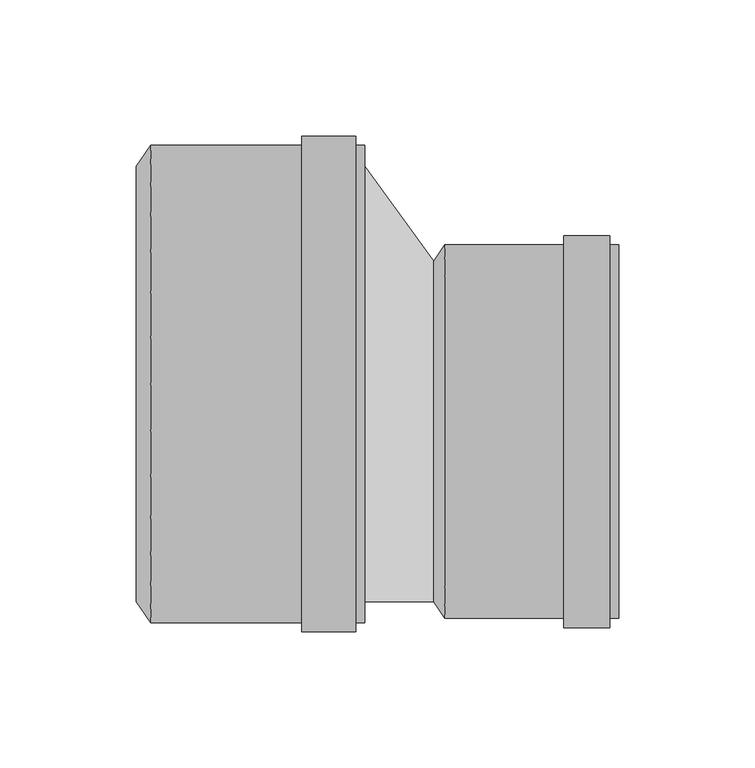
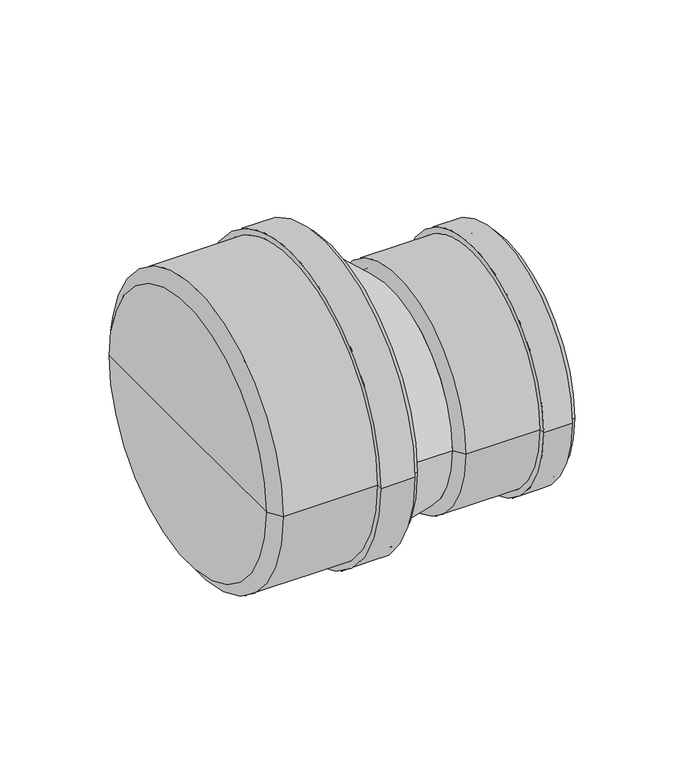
"""IFC4 building model written with IfcOpenShell, lengths in millimetres: pipe fitting geometry, pf_KGR_red-nes : pf_KGR_red-nes."""

from ifc_helpers import new_model, si_unit, frame, origin, place, context, project, spatial, polyline, circle_curve, source, transform, mapped, element, save
from ifc_brep_helpers import plane_surface, cylinder_surface, revolved_surface, spline_surface, advanced_brep


def pipe_fitting_dc32cf9a(model_context):
    return source(origin(), model_context, "Body", "AdvancedBrep", [
        advanced_brep(
        [(-84.0, -80.0, 0.0), (-84.0, 80.0, 0.0), (-78.6, 87.6, 0.0), (-78.6, -87.6, 0.0), (-84.0, 0.0, 0.0), (0.0, -87.6, 0.0), (0.0, 87.6, 0.0), (0.0, 80.0, 0.0), (0.0, -80.0, 0.0), (-3.4, -87.6, 0.0), (-3.4, 87.6, 0.0), (-3.4, -91.0, 0.0), (-3.4, 91.0, 0.0), (-23.1, -91.0, 0.0), (-23.1, 91.0, 0.0), (-23.1, -87.6, 0.0), (-23.1, 87.6, 0.0), (-78.6, -80.0, 0.0), (-78.6, 80.0, 0.0), (-78.6, 0.0, 0.0)],
        [
            (0, 1, circle_curve(frame((-84.0, 0.0, 0.0), z_axis=(1.0, 0.0, 0.0), x_axis=(0.0, 1.0, 0.0)), 80.0)),
            (1, 2),
            (2, 3, circle_curve(frame((-78.6, 0.0, 0.0), z_axis=(-1.0, 0.0, 0.0), x_axis=(0.0, 1.0, 0.0)), 87.6)),
            (3, 0),
            (1, 0, circle_curve(frame((-84.0, 0.0, 0.0), z_axis=(1.0, 0.0, 0.0), x_axis=(0.0, 1.0, 0.0)), 80.0)),
            (3, 2, circle_curve(frame((-78.6, 0.0, 0.0), z_axis=(-1.0, 0.0, 0.0), x_axis=(0.0, 1.0, 0.0)), 87.6)),
            (4, 1),
            (0, 4),
            (5, 6, circle_curve(frame((0.0, 0.0, 0.0), z_axis=(1.0, 0.0, 0.0), x_axis=(0.0, 1.0, 0.0)), 87.6)),
            (6, 7),
            (7, 8, circle_curve(frame((0.0, 0.0, 0.0), z_axis=(-1.0, 0.0, 0.0), x_axis=(0.0, 1.0, 0.0)), 80.0)),
            (8, 5),
            (6, 5, circle_curve(frame((0.0, 0.0, 0.0), z_axis=(1.0, 0.0, 0.0), x_axis=(0.0, 1.0, 0.0)), 87.6)),
            (8, 7, circle_curve(frame((0.0, 0.0, 0.0), z_axis=(-1.0, 0.0, 0.0), x_axis=(0.0, 1.0, 0.0)), 80.0)),
            (9, 10, circle_curve(frame((-3.4, 0.0, 0.0), z_axis=(1.0, 0.0, 0.0), x_axis=(0.0, 1.0, 0.0)), 87.6)),
            (10, 6),
            (5, 9),
            (10, 9, circle_curve(frame((-3.4, 0.0, 0.0), z_axis=(1.0, 0.0, 0.0), x_axis=(0.0, 1.0, 0.0)), 87.6)),
            (11, 12, circle_curve(frame((-3.4, 0.0, 0.0), z_axis=(1.0, 0.0, 0.0), x_axis=(0.0, 1.0, 0.0)), 91.0)),
            (12, 10),
            (9, 11),
            (12, 11, circle_curve(frame((-3.4, 0.0, 0.0), z_axis=(1.0, 0.0, 0.0), x_axis=(0.0, 1.0, 0.0)), 91.0)),
            (13, 14, circle_curve(frame((-23.1, 0.0, 0.0), z_axis=(1.0, 0.0, 0.0), x_axis=(0.0, 1.0, 0.0)), 91.0)),
            (14, 12),
            (11, 13),
            (14, 13, circle_curve(frame((-23.1, 0.0, 0.0), z_axis=(1.0, 0.0, 0.0), x_axis=(0.0, 1.0, 0.0)), 91.0)),
            (15, 16, circle_curve(frame((-23.1, 0.0, 0.0), z_axis=(1.0, 0.0, 0.0), x_axis=(0.0, 1.0, 0.0)), 87.6)),
            (16, 14),
            (13, 15),
            (16, 15, circle_curve(frame((-23.1, 0.0, 0.0), z_axis=(1.0, 0.0, 0.0), x_axis=(0.0, 1.0, 0.0)), 87.6)),
            (2, 16),
            (15, 3),
            (17, 18, circle_curve(frame((-78.6, 0.0, 0.0), z_axis=(1.0, 0.0, 0.0), x_axis=(0.0, 1.0, 0.0)), 80.0)),
            (18, 19),
            (19, 17),
            (18, 17, circle_curve(frame((-78.6, 0.0, 0.0), z_axis=(1.0, 0.0, 0.0), x_axis=(0.0, 1.0, 0.0)), 80.0)),
            (7, 18),
            (17, 8),
        ],
        [
            revolved_surface(polyline([(-78.6, 87.6, 0.0), (-84.0, 80.0, 0.0)]), (-84.0, 0.0, 0.0), (-1.0, 0.0, 0.0)),
            plane_surface(frame((-84.0, 0.0, 0.0), z_axis=(-1.0, 0.0, 0.0), x_axis=(0.0, 1.0, 0.0))),
            plane_surface(frame((0.0, 0.0, 0.0), z_axis=(1.0, 0.0, 0.0), x_axis=(0.0, 1.0, 0.0))),
            cylinder_surface(frame((-84.0, 0.0, 0.0), z_axis=(-1.0, 0.0, 0.0), x_axis=(0.0, 1.0, 0.0)), 87.6),
            plane_surface(frame((-3.4, 0.0, 0.0), z_axis=(1.0, 0.0, 0.0), x_axis=(0.0, 1.0, 0.0))),
            cylinder_surface(frame((-84.0, 0.0, 0.0), z_axis=(-1.0, 0.0, 0.0), x_axis=(0.0, 1.0, 0.0)), 91.0),
            plane_surface(frame((-23.1, 0.0, 0.0), z_axis=(-1.0, 0.0, 0.0), x_axis=(0.0, 1.0, 0.0))),
            plane_surface(frame((-78.6, 0.0, 0.0), z_axis=(1.0, 0.0, 0.0), x_axis=(0.0, 1.0, 0.0))),
            revolved_surface(polyline([(-78.6, 80.0, 0.0), (0.0, 80.0, 0.0)]), (-84.0, 0.0, 0.0), (-1.0, 0.0, 0.0)),
        ],
        [
            (0, [[1, 2, 3, 4]]),
            (0, [[5, -4, 6, -2]]),
            (1, [[7, -1, 8]]),
            (1, [[-8, -5, -7]]),
            (2, [[9, 10, 11, 12]]),
            (2, [[13, -12, 14, -10]]),
            (3, [[15, 16, -9, 17]]),
            (3, [[18, -17, -13, -16]]),
            (4, [[19, 20, -15, 21]]),
            (4, [[22, -21, -18, -20]]),
            (5, [[23, 24, -19, 25]]),
            (5, [[26, -25, -22, -24]]),
            (6, [[27, 28, -23, 29]]),
            (6, [[30, -29, -26, -28]]),
            (3, [[-3, 31, -27, 32]]),
            (3, [[-6, -32, -30, -31]]),
            (7, [[33, 34, 35]]),
            (7, [[36, -35, -34]]),
            (8, [[-11, 37, -33, 38]]),
            (8, [[-14, -38, -36, -37]]),
        ],
    ),
        advanced_brep(
        [(25.25, -80.0, 0.0), (25.25, 45.0, 0.0), (29.35, 51.1, 0.0), (29.35, -86.1, 0.0), (25.25, -17.5, 0.0), (93.25, -86.1, 0.0), (93.25, 51.1, 0.0), (93.25, 45.0, 0.0), (93.25, -80.0, 0.0), (89.85, -86.1, 0.0), (89.85, 51.1, 0.0), (89.85, -89.5, 0.0), (89.85, 54.5, 0.0), (73.05, -89.5, 0.0), (73.05, 54.5, 0.0), (73.05, -86.1, 0.0), (73.05, 51.1, 0.0), (29.35, -80.0, 0.0), (29.35, 45.0, 0.0), (29.35, -17.5, 0.0)],
        [
            (0, 1, circle_curve(frame((25.25, -17.5, 0.0), z_axis=(1.0, 0.0, 0.0), x_axis=(0.0, 1.0, 0.0)), 62.5)),
            (1, 2),
            (2, 3, circle_curve(frame((29.35, -17.5, 0.0), z_axis=(-1.0, 0.0, 0.0), x_axis=(0.0, 1.0, 0.0)), 68.6)),
            (3, 0),
            (1, 0, circle_curve(frame((25.25, -17.5, 0.0), z_axis=(1.0, 0.0, 0.0), x_axis=(0.0, 1.0, 0.0)), 62.5)),
            (3, 2, circle_curve(frame((29.35, -17.5, 0.0), z_axis=(-1.0, 0.0, 0.0), x_axis=(0.0, 1.0, 0.0)), 68.6)),
            (4, 1),
            (0, 4),
            (5, 6, circle_curve(frame((93.25, -17.5, 0.0), z_axis=(1.0, 0.0, 0.0), x_axis=(0.0, 1.0, 0.0)), 68.6)),
            (6, 7),
            (7, 8, circle_curve(frame((93.25, -17.5, 0.0), z_axis=(-1.0, 0.0, 0.0), x_axis=(0.0, 1.0, 0.0)), 62.5)),
            (8, 5),
            (6, 5, circle_curve(frame((93.25, -17.5, 0.0), z_axis=(1.0, 0.0, 0.0), x_axis=(0.0, 1.0, 0.0)), 68.6)),
            (8, 7, circle_curve(frame((93.25, -17.5, 0.0), z_axis=(-1.0, 0.0, 0.0), x_axis=(0.0, 1.0, 0.0)), 62.5)),
            (9, 10, circle_curve(frame((89.85, -17.5, 0.0), z_axis=(1.0, 0.0, 0.0), x_axis=(0.0, 1.0, 0.0)), 68.6)),
            (10, 6),
            (5, 9),
            (10, 9, circle_curve(frame((89.85, -17.5, 0.0), z_axis=(1.0, 0.0, 0.0), x_axis=(0.0, 1.0, 0.0)), 68.6)),
            (11, 12, circle_curve(frame((89.85, -17.5, 0.0), z_axis=(1.0, 0.0, 0.0), x_axis=(0.0, 1.0, 0.0)), 72.0)),
            (12, 10),
            (9, 11),
            (12, 11, circle_curve(frame((89.85, -17.5, 0.0), z_axis=(1.0, 0.0, 0.0), x_axis=(0.0, 1.0, 0.0)), 72.0)),
            (13, 14, circle_curve(frame((73.05, -17.5, 0.0), z_axis=(1.0, 0.0, 0.0), x_axis=(0.0, 1.0, 0.0)), 72.0)),
            (14, 12),
            (11, 13),
            (14, 13, circle_curve(frame((73.05, -17.5, 0.0), z_axis=(1.0, 0.0, 0.0), x_axis=(0.0, 1.0, 0.0)), 72.0)),
            (15, 16, circle_curve(frame((73.05, -17.5, 0.0), z_axis=(1.0, 0.0, 0.0), x_axis=(0.0, 1.0, 0.0)), 68.6)),
            (16, 14),
            (13, 15),
            (16, 15, circle_curve(frame((73.05, -17.5, 0.0), z_axis=(1.0, 0.0, 0.0), x_axis=(0.0, 1.0, 0.0)), 68.6)),
            (2, 16),
            (15, 3),
            (17, 18, circle_curve(frame((29.35, -17.5, 0.0), z_axis=(1.0, 0.0, 0.0), x_axis=(0.0, 1.0, 0.0)), 62.5)),
            (18, 19),
            (19, 17),
            (18, 17, circle_curve(frame((29.35, -17.5, 0.0), z_axis=(1.0, 0.0, 0.0), x_axis=(0.0, 1.0, 0.0)), 62.5)),
            (7, 18),
            (17, 8),
        ],
        [
            revolved_surface(polyline([(29.35, 51.1, 0.0), (25.25, 45.0, 0.0)]), (25.25, -17.5, 0.0), (-1.0, 0.0, 0.0)),
            plane_surface(frame((25.25, -17.5, 0.0), z_axis=(-1.0, 0.0, 0.0), x_axis=(0.0, 1.0, 0.0))),
            plane_surface(frame((93.25, -17.5, 0.0), z_axis=(1.0, 0.0, 0.0), x_axis=(0.0, 1.0, 0.0))),
            cylinder_surface(frame((25.25, -17.5, 0.0), z_axis=(-1.0, 0.0, 0.0), x_axis=(0.0, 1.0, 0.0)), 68.6),
            plane_surface(frame((89.85, -17.5, 0.0), z_axis=(1.0, 0.0, 0.0), x_axis=(0.0, 1.0, 0.0))),
            cylinder_surface(frame((25.25, -17.5, 0.0), z_axis=(-1.0, 0.0, 0.0), x_axis=(0.0, 1.0, 0.0)), 72.0),
            plane_surface(frame((73.05, -17.5, 0.0), z_axis=(-1.0, 0.0, 0.0), x_axis=(0.0, 1.0, 0.0))),
            plane_surface(frame((29.35, -17.5, 0.0), z_axis=(1.0, 0.0, 0.0), x_axis=(0.0, 1.0, 0.0))),
            revolved_surface(polyline([(29.35, 45.0, 0.0), (93.25, 45.0, 0.0)]), (25.25, -17.5, 0.0), (-1.0, 0.0, 0.0)),
        ],
        [
            (0, [[1, 2, 3, 4]]),
            (0, [[5, -4, 6, -2]]),
            (1, [[7, -1, 8]]),
            (1, [[-8, -5, -7]]),
            (2, [[9, 10, 11, 12]]),
            (2, [[13, -12, 14, -10]]),
            (3, [[15, 16, -9, 17]]),
            (3, [[18, -17, -13, -16]]),
            (4, [[19, 20, -15, 21]]),
            (4, [[22, -21, -18, -20]]),
            (5, [[23, 24, -19, 25]]),
            (5, [[26, -25, -22, -24]]),
            (6, [[27, 28, -23, 29]]),
            (6, [[30, -29, -26, -28]]),
            (3, [[-3, 31, -27, 32]]),
            (3, [[-6, -32, -30, -31]]),
            (7, [[33, 34, 35]]),
            (7, [[36, -35, -34]]),
            (8, [[-11, 37, -33, 38]]),
            (8, [[-14, -38, -36, -37]]),
        ],
    ),
        advanced_brep(
        [(25.25, -80.0, 0.0), (25.25, 45.0, 0.0), (0.0, -80.0, 0.0), (0.0, 80.0, 0.0)],
        [
            (0, 1, circle_curve(frame((25.25, -17.5, 0.0), z_axis=(1.0, 0.0, 0.0), x_axis=(0.0, 1.0, 0.0)), 62.5)),
            (1, 0, circle_curve(frame((25.25, -17.5, 0.0), z_axis=(1.0, 0.0, 0.0), x_axis=(0.0, 1.0, 0.0)), 62.5)),
            (2, 3, circle_curve(frame((0.0, 0.0, 0.0), z_axis=(-1.0, 0.0, 0.0), x_axis=(0.0, 1.0, 0.0)), 80.0)),
            (3, 2, circle_curve(frame((0.0, 0.0, 0.0), z_axis=(-1.0, 0.0, 0.0), x_axis=(0.0, 1.0, 0.0)), 80.0)),
            (3, 1),
            (0, 2),
        ],
        [
            plane_surface(frame((25.25, -17.5, 0.0), z_axis=(1.0, 0.0, 0.0), x_axis=(0.0, 0.0, -1.0))),
            plane_surface(frame((0.0, 0.0, 0.0), z_axis=(-1.0, 0.0, 0.0), x_axis=(0.0, 0.0, -1.0))),
            spline_surface(2, 1, [[(0.0, -80.0, 0.0), (25.25, -80.0, 0.0)], [(0.0, -80.0, -80.0), (25.25, -80.0, -62.5)], [(0.0, 0.0, -80.0), (25.25, -17.5, -62.5)], [(0.0, 80.0, -80.0), (25.25, 45.0, -62.5)], [(0.0, 80.0, 0.0), (25.25, 45.0, 0.0)]], [3, 2, 3], [2, 2], [0.0, 1.0, 2.0], [0.0, 1.0], weights=[[1.0, 1.0], [0.7071067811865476, 0.7071067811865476], [1.0, 1.0], [0.7071067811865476, 0.7071067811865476], [1.0, 1.0]]),
            spline_surface(2, 1, [[(0.0, 80.0, 0.0), (25.25, 45.0, 0.0)], [(0.0, 80.0, 80.0), (25.25, 45.0, 62.5)], [(0.0, 0.0, 80.0), (25.25, -17.5, 62.5)], [(0.0, -80.0, 80.0), (25.25, -80.0, 62.5)], [(0.0, -80.0, 0.0), (25.25, -80.0, 0.0)]], [3, 2, 3], [2, 2], [0.0, 1.0, 2.0], [0.0, 1.0], weights=[[1.0, 1.0], [0.7071067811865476, 0.7071067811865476], [1.0, 1.0], [0.7071067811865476, 0.7071067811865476], [1.0, 1.0]]),
        ],
        [
            (0, [[1, 2]]),
            (1, [[3, 4]]),
            (2, [[-4, 5, -1, 6]]),
            (3, [[-3, -6, -2, -5]]),
        ],
    ),
    ])


if __name__ == "__main__":
    model = new_model("IFC4")
    model_context = context("Model", 3, world=origin())
    ifc_project = project(units=[si_unit("LENGTHUNIT", "METRE", prefix="MILLI")], contexts=[model_context])
    site = spatial("IfcSite", under=ifc_project)
    building = spatial("IfcBuilding", under=site)
    placement = place(None, origin())
    pipe_fitting_shape = pipe_fitting_dc32cf9a(model_context)
    element("IfcPipeFitting", 1, ObjectType="pf_KGR_red-nes : pf_KGR_red-nes", at=placement, inside=building, context=model_context, shape_type="MappedRepresentation", body=[
        mapped(pipe_fitting_shape, transform((0.0, 0.0, 0.0), x_axis=(1.0, 0.0, 0.0), y_axis=(0.0, 1.0, 0.0), z_axis=(0.0, 0.0, 1.0))),
    ])
    save(model, "model.ifc")
